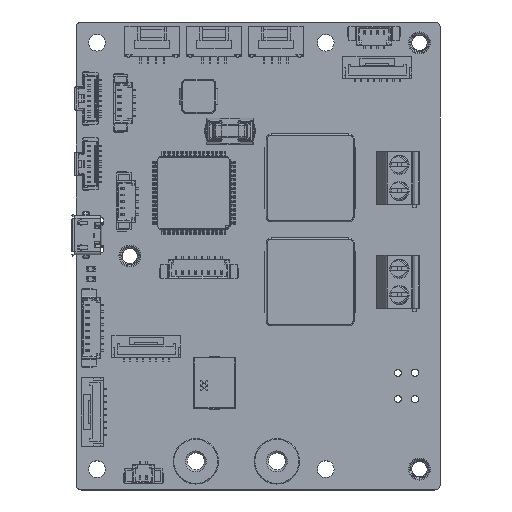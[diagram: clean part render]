
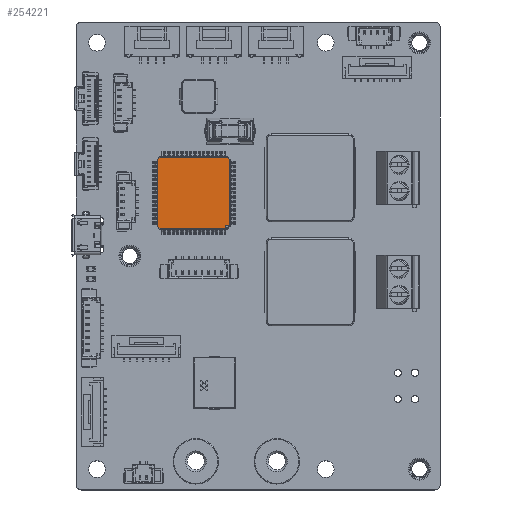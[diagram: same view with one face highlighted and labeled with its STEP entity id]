
A CAD part, top view. The second image highlights one B-rep face of the part: STEP entity #254221.
In plain terms, the highlighted planar face has unit normal (0, 0, 1).
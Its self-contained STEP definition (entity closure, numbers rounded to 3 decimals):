
#1487 = CARTESIAN_POINT ( 'NONE',  ( 78.75, 50.7, 1.6 ) ) ;
#8499 = EDGE_CURVE ( 'NONE', #231624, #84240, #158448, .T. ) ;
#8608 = CARTESIAN_POINT ( 'NONE',  ( 65.7, 50.642, 1.6 ) ) ;
#9463 = LINE ( 'NONE', #221493, #222942 ) ;
#17898 = EDGE_CURVE ( 'NONE', #39937, #70367, #35200, .T. ) ;
#27671 = VECTOR ( 'NONE', #268648, 1000. ) ;
#30160 = ORIENTED_EDGE ( 'NONE', *, *, #234919, .F. ) ;
#33312 = CARTESIAN_POINT ( 'NONE',  ( 65.7, 63.559, 1.6 ) ) ;
#35200 = LINE ( 'NONE', #119717, #272830 ) ;
#37365 = VECTOR ( 'NONE', #131194, 1000. ) ;
#38862 = LINE ( 'NONE', #193458, #119971 ) ;
#39937 = VERTEX_POINT ( 'NONE', #230203 ) ;
#48387 = ORIENTED_EDGE ( 'NONE', *, *, #122999, .T. ) ;
#50339 = DIRECTION ( 'NONE',  ( 0., 0., -1. ) ) ;
#52349 = CARTESIAN_POINT ( 'NONE',  ( 66.141, 64., 1.6 ) ) ;
#58560 = CARTESIAN_POINT ( 'NONE',  ( 79., 50.7, 1.6 ) ) ;
#58947 = EDGE_CURVE ( 'NONE', #84240, #190803, #38862, .T. ) ;
#59097 = CARTESIAN_POINT ( 'NONE',  ( 79.5, 57.1, 1.6 ) ) ;
#63823 = CARTESIAN_POINT ( 'NONE',  ( 65.7, 57.1, 1.6 ) ) ;
#68433 = CARTESIAN_POINT ( 'NONE',  ( 79.5, 50.642, 1.6 ) ) ;
#70367 = VERTEX_POINT ( 'NONE', #8608 ) ;
#71042 = DIRECTION ( 'NONE',  ( -0.707, -0.707, 0. ) ) ;
#78285 = ORIENTED_EDGE ( 'NONE', *, *, #268298, .F. ) ;
#81782 = DIRECTION ( 'NONE',  ( 0.707, -0.707, 0. ) ) ;
#82279 = LINE ( 'NONE', #258405, #227471 ) ;
#84240 = VERTEX_POINT ( 'NONE', #143254 ) ;
#93974 = PLANE ( 'NONE',  #191662 ) ;
#97571 = EDGE_LOOP ( 'NONE', ( #78285, #131454, #142155, #266658, #119508, #30160, #229597, #154536 ) ) ;
#98204 = FACE_OUTER_BOUND ( 'NONE', #97571, .T. ) ;
#99071 = VECTOR ( 'NONE', #107714, 1000. ) ;
#104778 = CARTESIAN_POINT ( 'NONE',  ( 79.058, 50.2, 1.6 ) ) ;
#107714 = DIRECTION ( 'NONE',  ( 0., -1., 0. ) ) ;
#114965 = VERTEX_POINT ( 'NONE', #1487 ) ;
#116493 = VERTEX_POINT ( 'NONE', #68433 ) ;
#116886 = CARTESIAN_POINT ( 'NONE',  ( 72.6, 57.1, 1.6 ) ) ;
#117596 = DIRECTION ( 'NONE',  ( -1., 0., 0. ) ) ;
#119508 = ORIENTED_EDGE ( 'NONE', *, *, #8499, .F. ) ;
#119671 = CARTESIAN_POINT ( 'NONE',  ( 72.6, 50.2, 1.6 ) ) ;
#119717 = CARTESIAN_POINT ( 'NONE',  ( 65.921, 50.421, 1.6 ) ) ;
#119971 = VECTOR ( 'NONE', #81782, 1000. ) ;
#121466 = VERTEX_POINT ( 'NONE', #255902 ) ;
#121690 = DIRECTION ( 'NONE',  ( 0., 0., -1. ) ) ;
#122531 = DIRECTION ( 'NONE',  ( -0.707, 0.707, 0. ) ) ;
#122999 = EDGE_CURVE ( 'NONE', #114965, #121466, #142959, .T. ) ;
#131194 = DIRECTION ( 'NONE',  ( 0., 1., 0. ) ) ;
#131454 = ORIENTED_EDGE ( 'NONE', *, *, #263667, .F. ) ;
#133694 = VERTEX_POINT ( 'NONE', #104778 ) ;
#138078 = VERTEX_POINT ( 'NONE', #33312 ) ;
#142155 = ORIENTED_EDGE ( 'NONE', *, *, #250015, .F. ) ;
#142959 = CIRCLE ( 'NONE', #165878, 0.25 ) ;
#142982 = EDGE_CURVE ( 'NONE', #70367, #138078, #147016, .T. ) ;
#143254 = CARTESIAN_POINT ( 'NONE',  ( 79.058, 64., 1.6 ) ) ;
#147016 = LINE ( 'NONE', #63823, #37365 ) ;
#149553 = DIRECTION ( 'NONE',  ( 0.707, 0.707, 0. ) ) ;
#154536 = ORIENTED_EDGE ( 'NONE', *, *, #17898, .F. ) ;
#158448 = LINE ( 'NONE', #221510, #203986 ) ;
#158459 = DIRECTION ( 'NONE',  ( 0., 0., 1. ) ) ;
#165475 = LINE ( 'NONE', #119671, #27671 ) ;
#165878 = AXIS2_PLACEMENT_3D ( 'NONE', #58560, #121690, #170264 ) ;
#167176 = CARTESIAN_POINT ( 'NONE',  ( 79.5, 63.559, 1.6 ) ) ;
#170264 = DIRECTION ( 'NONE',  ( -1., 0., 0. ) ) ;
#185589 = FACE_BOUND ( 'NONE', #199279, .T. ) ;
#190803 = VERTEX_POINT ( 'NONE', #167176 ) ;
#191662 = AXIS2_PLACEMENT_3D ( 'NONE', #116886, #158459, #205659 ) ;
#192818 = CIRCLE ( 'NONE', #256801, 0.25 ) ;
#193458 = CARTESIAN_POINT ( 'NONE',  ( 79.279, 63.78, 1.6 ) ) ;
#199279 = EDGE_LOOP ( 'NONE', ( #48387, #246500 ) ) ;
#203986 = VECTOR ( 'NONE', #245801, 1000. ) ;
#205659 = DIRECTION ( 'NONE',  ( -1., 0., 0. ) ) ;
#216591 = LINE ( 'NONE', #59097, #99071 ) ;
#221493 = CARTESIAN_POINT ( 'NONE',  ( 79.279, 50.421, 1.6 ) ) ;
#221510 = CARTESIAN_POINT ( 'NONE',  ( 72.6, 64., 1.6 ) ) ;
#222942 = VECTOR ( 'NONE', #71042, 1000. ) ;
#227471 = VECTOR ( 'NONE', #149553, 1000. ) ;
#228141 = EDGE_CURVE ( 'NONE', #121466, #114965, #192818, .T. ) ;
#229597 = ORIENTED_EDGE ( 'NONE', *, *, #142982, .F. ) ;
#230203 = CARTESIAN_POINT ( 'NONE',  ( 66.141, 50.2, 1.6 ) ) ;
#231624 = VERTEX_POINT ( 'NONE', #52349 ) ;
#234919 = EDGE_CURVE ( 'NONE', #138078, #231624, #82279, .T. ) ;
#245801 = DIRECTION ( 'NONE',  ( 1., 0., 0. ) ) ;
#246500 = ORIENTED_EDGE ( 'NONE', *, *, #228141, .T. ) ;
#246530 = CARTESIAN_POINT ( 'NONE',  ( 79., 50.7, 1.6 ) ) ;
#250015 = EDGE_CURVE ( 'NONE', #190803, #116493, #216591, .T. ) ;
#254221 = ADVANCED_FACE ( 'NONE', ( #98204, #185589 ), #93974, .T. ) ;
#255902 = CARTESIAN_POINT ( 'NONE',  ( 79.25, 50.7, 1.6 ) ) ;
#256801 = AXIS2_PLACEMENT_3D ( 'NONE', #246530, #50339, #117596 ) ;
#258405 = CARTESIAN_POINT ( 'NONE',  ( 65.921, 63.78, 1.6 ) ) ;
#263667 = EDGE_CURVE ( 'NONE', #116493, #133694, #9463, .T. ) ;
#266658 = ORIENTED_EDGE ( 'NONE', *, *, #58947, .F. ) ;
#268298 = EDGE_CURVE ( 'NONE', #133694, #39937, #165475, .T. ) ;
#268648 = DIRECTION ( 'NONE',  ( -1., 0., 0. ) ) ;
#272830 = VECTOR ( 'NONE', #122531, 1000. ) ;
